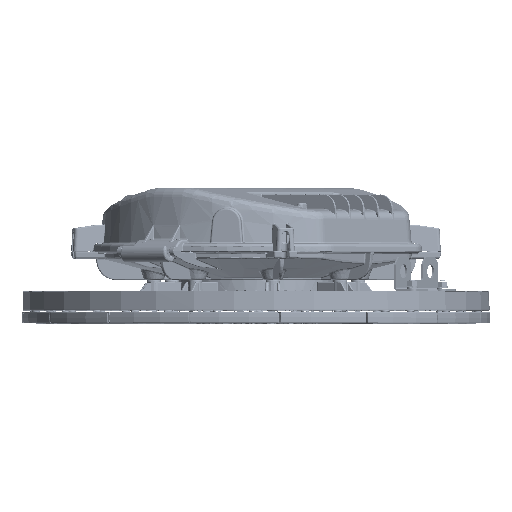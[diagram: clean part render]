
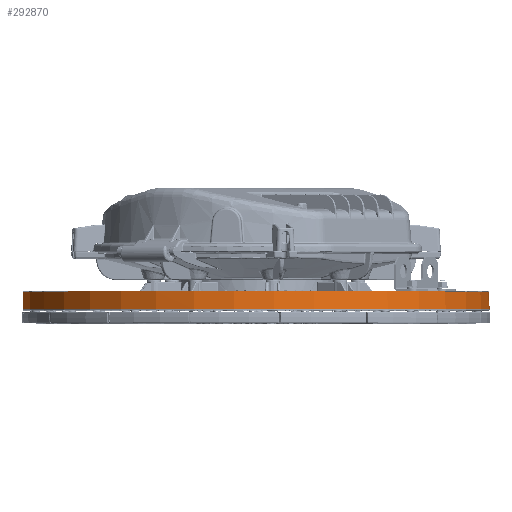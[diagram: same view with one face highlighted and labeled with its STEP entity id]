
A CAD part, top view. The second image highlights one B-rep face of the part: STEP entity #292870.
In plain terms, the highlighted conical face has half-angle 2 degrees and reference radius 304.397 mm.
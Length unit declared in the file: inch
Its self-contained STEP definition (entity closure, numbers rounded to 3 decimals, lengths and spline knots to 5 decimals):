
#14820=CARTESIAN_POINT('',(0.,0.363,0.));
#14821=DIRECTION('',(0.,-1.,0.));
#14822=DIRECTION('',(0.287,0.,-0.958));
#14823=AXIS2_PLACEMENT_3D('',#14820,#14821,#14822);
#14825=CARTESIAN_POINT('',(0.,1.27105,0.));
#14826=DIRECTION('',(0.,-1.,0.));
#14827=DIRECTION('',(0.287,0.,-0.958));
#14828=AXIS2_PLACEMENT_3D('',#14825,#14826,#14827);
#29842=DIRECTION('',(-0.012,0.999,0.033));
#29843=VECTOR('',#29842,0.9086);
#29844=CARTESIAN_POINT('',(3.44692,0.363,-11.49429));
#29845=LINE('',#29844,#29843);
#29851=DIRECTION('',(-0.002,-0.999,-0.035));
#29852=VECTOR('',#29851,0.9086);
#29853=CARTESIAN_POINT('',(-1.19069,1.27105,
-11.90891));
#29854=LINE('',#29853,#29852);
#253189=CARTESIAN_POINT('',(3.44692,0.363,-11.49429));
#253190=VERTEX_POINT('',#253189);
#253191=CARTESIAN_POINT('',(-1.19237,0.363,
-11.94061));
#253192=VERTEX_POINT('',#253191);
#253193=CARTESIAN_POINT('',(3.43639,1.27105,
-11.46434));
#253194=CARTESIAN_POINT('',(-1.19069,1.27105,
-11.90891));
#253195=VERTEX_POINT('',#253193);
#253196=VERTEX_POINT('',#253194);
#292856=CARTESIAN_POINT('',(0.,0.81702,0.));
#292857=DIRECTION('',(0.,-1.,0.));
#292858=DIRECTION('',(-0.383,0.,0.924));
#292859=AXIS2_PLACEMENT_3D('',#292856,#292857,#292858);
#292860=CONICAL_SURFACE('',#292859,11.98415,2.);
#292862=ORIENTED_EDGE('',*,*,#292861,.T.);
#292864=ORIENTED_EDGE('',*,*,#292863,.T.);
#292865=ORIENTED_EDGE('',*,*,#292849,.F.);
#292867=ORIENTED_EDGE('',*,*,#292866,.T.);
#292868=EDGE_LOOP('',(#292862,#292864,#292865,#292867));
#292869=FACE_OUTER_BOUND('',#292868,.F.);
#292870=ADVANCED_FACE('',(#292869),#292860,.F.);
#14824=CIRCLE('',#14823,12.);
#14829=CIRCLE('',#14828,11.96829);
#292849=EDGE_CURVE('',#253190,#253192,#14824,.T.);
#292861=EDGE_CURVE('',#253195,#253196,#14829,.T.);
#292863=EDGE_CURVE('',#253196,#253192,#29854,.T.);
#292866=EDGE_CURVE('',#253190,#253195,#29845,.T.);
